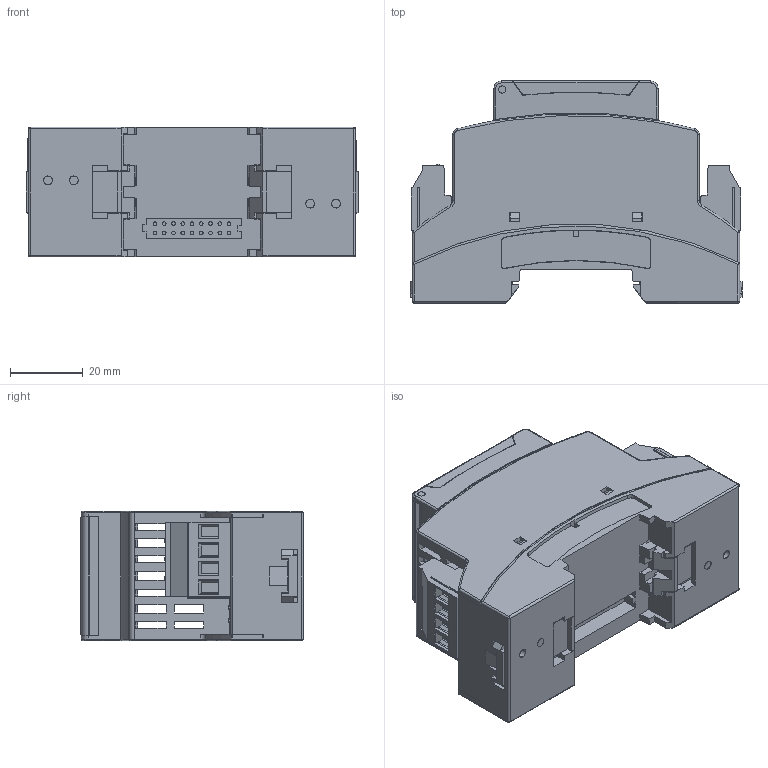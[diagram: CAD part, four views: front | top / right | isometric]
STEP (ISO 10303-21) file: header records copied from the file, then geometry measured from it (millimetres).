
FILE_DESCRIPTION (( 'STEP AP214' ), '1' );
FILE_NAME ('D-EmV.STEP', '2015-09-10T15:50:40', ( '' ), ( '' ), 'SwSTEP 2.0', 'SolidWorks 2015', '' );
FILE_SCHEMA (( 'AUTOMOTIVE_DESIGN' ));
Length unit declared in the file: millimetre
Products named in the file (8): D-EmV; Aufkleber-32x41-EmV; BC_35.6_DKL_R_H.Select; BC_35.6_GEH-OT_U11_H.Select; Dummy-EMV; Unterteil_35.6; BC_35.6_GEH-UT_HBUS_H.Select; Fussriegel_14.4_L30_Sperr_H.Select__00370451_Nr2
Assembly tree (8 placements, depth 3):
  D-EmV
    Unterteil_35.6
      Fussriegel_14.4_L30_Sperr_H.Select__00370451_Nr2  x2
      BC_35.6_GEH-UT_HBUS_H.Select
    Dummy-EMV
    BC_35.6_GEH-OT_U11_H.Select
    BC_35.6_DKL_R_H.Select
    Aufkleber-32x41-EmV
Bounding box: 91 x 60.9 x 35.6 mm (x, y, z)
Volume: 44231.3 mm3; surface area: 60116.5 mm2
Topology: 17 solids, 17 shells, 1432 faces, 4066 edges, 2676 vertices
Faces by surface type: plane 1134, cylinder 250, bspline 28, cone 14, sphere 6
Entity records: 61241 total; most frequent: CARTESIAN_POINT 8710, ORIENTED_EDGE 7900, DIRECTION 7189, EDGE_CURVE 3950, LINE 3327, VECTOR 3327, VERTEX_POINT 2604, AXIS2_PLACEMENT_3D 1931
